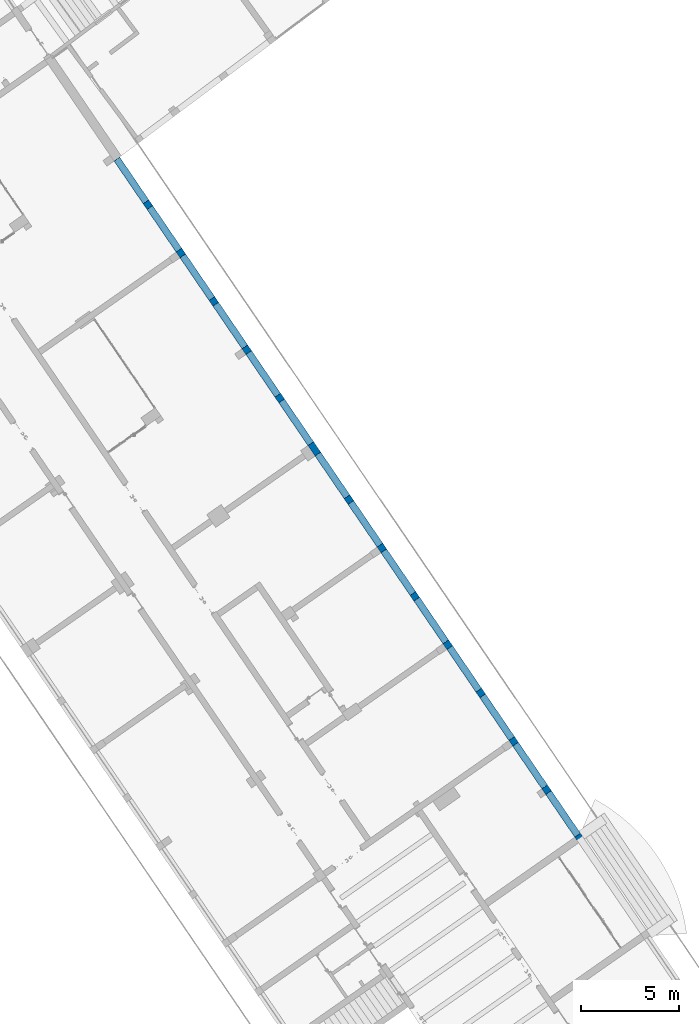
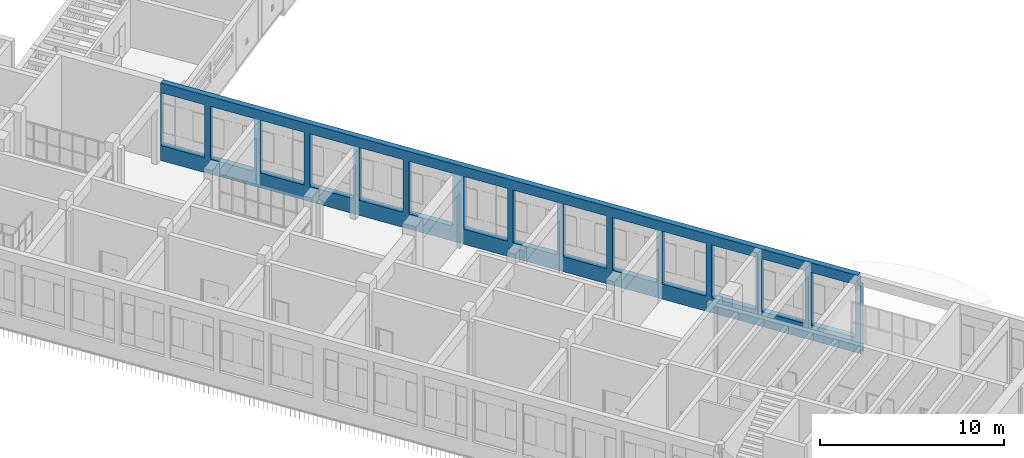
# One storey, part 126 of 157: 1 wall, 14 openings.
"""IFC2X3 building model written with IfcOpenShell, lengths in millimetres."""

from ifc_helpers import new_model, entity, si_unit, converted_unit, derived_unit, direction, frame, frame_2d, origin, place, context, subcontext, project, spatial, rectangle, extrude, faceted_brep, material, layer, layer_set, type_object, element, save


model = new_model("IFC2X3")

# Units and contexts
model_context = context("Model", 3, precision=0.01, world=origin(), true_north=direction((6.123031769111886e-17, 1.0)))
body_context = subcontext(model_context, "Body", "Model", "MODEL_VIEW")
ifc_project = project(units=[si_unit("LENGTHUNIT", "METRE", prefix="MILLI"), si_unit("AREAUNIT", "SQUARE_METRE"), si_unit("VOLUMEUNIT", "CUBIC_METRE"), converted_unit("PLANEANGLEUNIT", "DEGREE", entity("IfcRatioMeasure", 0.017453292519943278), si_unit("PLANEANGLEUNIT", "RADIAN"), dimensions=[0, 0, 0, 0, 0, 0, 0]), si_unit("MASSUNIT", "GRAM", prefix="KILO"), derived_unit("MASSDENSITYUNIT", [(si_unit("MASSUNIT", "GRAM", prefix="KILO"), 1), (si_unit("LENGTHUNIT", "METRE"), -3)]), derived_unit("MOMENTOFINERTIAUNIT", [(si_unit("LENGTHUNIT", "METRE"), 4)]), si_unit("TIMEUNIT", "SECOND"), si_unit("FREQUENCYUNIT", "HERTZ"), si_unit("THERMODYNAMICTEMPERATUREUNIT", "DEGREE_CELSIUS"), derived_unit("THERMALTRANSMITTANCEUNIT", [(si_unit("MASSUNIT", "GRAM", prefix="KILO"), 1), (si_unit("THERMODYNAMICTEMPERATUREUNIT", "KELVIN"), -1), (si_unit("TIMEUNIT", "SECOND"), -3)]), derived_unit("THERMALCONDUCTANCEUNIT", [(si_unit("MASSUNIT", "GRAM", prefix="KILO"), 1), (si_unit("LENGTHUNIT", "METRE"), 1), (si_unit("THERMODYNAMICTEMPERATUREUNIT", "KELVIN"), -1), (si_unit("TIMEUNIT", "SECOND"), -3)]), derived_unit("VOLUMETRICFLOWRATEUNIT", [(si_unit("LENGTHUNIT", "METRE"), 3), (si_unit("TIMEUNIT", "SECOND"), -1)]), derived_unit("MASSFLOWRATEUNIT", [(si_unit("MASSUNIT", "GRAM", prefix="KILO"), 1), (si_unit("TIMEUNIT", "SECOND"), -1)]), derived_unit("ROTATIONALFREQUENCYUNIT", [(si_unit("TIMEUNIT", "SECOND"), -1)]), si_unit("ELECTRICCURRENTUNIT", "AMPERE"), si_unit("ELECTRICVOLTAGEUNIT", "VOLT"), si_unit("POWERUNIT", "WATT"), converted_unit("FORCEUNIT", "KIP", entity("IfcRatioMeasure", 2.088543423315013e-05), si_unit("FORCEUNIT", "NEWTON"), dimensions=[1, 1, -2, 0, 0, 0, 0]), si_unit("ILLUMINANCEUNIT", "LUX"), si_unit("LUMINOUSFLUXUNIT", "LUMEN"), si_unit("LUMINOUSINTENSITYUNIT", "CANDELA"), derived_unit("USERDEFINED", [(si_unit("MASSUNIT", "GRAM", prefix="KILO"), -1), (si_unit("LENGTHUNIT", "METRE"), -2), (si_unit("TIMEUNIT", "SECOND"), 3), (si_unit("LUMINOUSFLUXUNIT", "LUMEN"), 1)]), derived_unit("USERDEFINED", [(si_unit("MASSUNIT", "GRAM", prefix="KILO"), 1), (si_unit("LENGTHUNIT", "METRE"), 3), (si_unit("TIMEUNIT", "SECOND"), -3), (si_unit("ELECTRICCURRENTUNIT", "AMPERE"), -2)]), derived_unit("USERDEFINED", [(si_unit("LENGTHUNIT", "METRE"), 2), (si_unit("TIMEUNIT", "SECOND"), -2)]), derived_unit("SOUNDPOWERUNIT", [(si_unit("MASSUNIT", "GRAM", prefix="KILO"), 1), (si_unit("LENGTHUNIT", "METRE"), 2), (si_unit("TIMEUNIT", "SECOND"), -3)]), derived_unit("SOUNDPRESSUREUNIT", [(si_unit("MASSUNIT", "GRAM", prefix="KILO"), 1), (si_unit("LENGTHUNIT", "METRE"), -1), (si_unit("TIMEUNIT", "SECOND"), -2)]), derived_unit("LINEARVELOCITYUNIT", [(si_unit("LENGTHUNIT", "METRE"), 1), (si_unit("TIMEUNIT", "SECOND"), -1)]), si_unit("PRESSUREUNIT", "PASCAL"), derived_unit("USERDEFINED", [(si_unit("LENGTHUNIT", "METRE"), -2), (si_unit("MASSUNIT", "GRAM", prefix="KILO"), 1), (si_unit("TIMEUNIT", "SECOND"), -2)]), derived_unit("LINEARFORCEUNIT", [(si_unit("MASSUNIT", "GRAM", prefix="KILO"), 1), (si_unit("LENGTHUNIT", "METRE"), 1), (si_unit("TIMEUNIT", "SECOND"), -2), (si_unit("LENGTHUNIT", "METRE"), -1)]), derived_unit("PLANARFORCEUNIT", [(si_unit("MASSUNIT", "GRAM", prefix="KILO"), 1), (si_unit("LENGTHUNIT", "METRE"), 1), (si_unit("TIMEUNIT", "SECOND"), -2), (si_unit("LENGTHUNIT", "METRE"), -2)]), derived_unit("SPECIFICHEATCAPACITYUNIT", [(si_unit("LENGTHUNIT", "METRE"), 2), (si_unit("TIMEUNIT", "SECOND"), -2), (si_unit("THERMODYNAMICTEMPERATUREUNIT", "KELVIN"), -1)]), derived_unit("VAPORPERMEABILITYUNIT", [(si_unit("TIMEUNIT", "SECOND"), 1), (si_unit("LENGTHUNIT", "METRE"), -1)]), derived_unit("DYNAMICVISCOSITYUNIT", [(si_unit("MASSUNIT", "GRAM", prefix="KILO"), 1), (si_unit("LENGTHUNIT", "METRE"), -1), (si_unit("TIMEUNIT", "SECOND"), -1)]), derived_unit("THERMALEXPANSIONCOEFFICIENTUNIT", [(si_unit("THERMODYNAMICTEMPERATUREUNIT", "KELVIN"), -1)])], contexts=[model_context])

# Site, building, storey
site_placement = place(None, frame((0.0, 0.0, 0.0), z_axis=(0.0, 0.0, 1.0), x_axis=(0.8191520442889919, 0.5735764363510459, 0.0)))
site = spatial("IfcSite", under=ifc_project, at=site_placement, Name="Default", CompositionType="ELEMENT")
building_placement = place(site_placement, origin())
building = spatial("IfcBuilding", under=site, at=building_placement, CompositionType="ELEMENT")
storey_placement = place(building_placement, origin())
storey = spatial("IfcBuildingStorey", under=building, at=storey_placement, Name="1.EG +0.00", CompositionType="ELEMENT", Elevation=-4.331468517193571e-12)

# Wall, openings
ifc_material = material(Name="Analytical Wall Surface_CJC")
ifc_layer = layer(ifc_material, 350.0)
ifc_layer_set = layer_set([ifc_layer], Name="Basic Wall:Wand_Aussen_35")
wall_type = type_object("IfcWallType", Name="Basic Wall:Wand_Aussen_35", PredefinedType="STANDARD", material=ifc_layer_set)
wall_placement = place(storey_placement, frame((-204385.50902908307, 157823.58477019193, 0.0), z_axis=(0.0, 0.0, 1.0), x_axis=(-0.012719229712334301, -0.9999191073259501, 0.0)))
wall = element("IfcWall", 1, at=wall_placement, inside=storey, type_object=wall_type, Name="Basic Wall:Wand_Aussen_35", ObjectType="Basic Wall:Wand_Aussen_35", context=body_context, shape_type="Brep", body=[
    faceted_brep([(0.0, -175.0, 0.0), (5654.909161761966, -175.0, 0.0), (6004.937476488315, -175.0, 0.0), (11655.39455707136, -175.0, 0.0), (12005.42287179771, -175.0, 0.0), (23956.38961745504, -175.0, 0.0), (24306.41793218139, -175.0, 0.0), (29956.87501276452, -175.0, 0.0), (30306.903327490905, -175.0, 0.0), (35957.360408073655, -175.0, 0.0), (36307.38872280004, -175.0, 0.0), (38957.603105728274, -175.0, 0.0), (39307.63142045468, -175.0, 0.0), (41957.84580338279, -175.0, 0.0), (42307.87411810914, -175.0, 0.0), (42307.87411810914, -175.0, 4500.0), (42130.63391547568, -175.0, 4500.0), (42130.633915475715, -175.0, 5150.0), (41957.845803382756, -175.0, 5150.0), (39307.63142045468, -175.0, 5150.0), (38957.603105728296, -175.0, 5150.0), (36307.388722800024, -175.0, 5150.0), (35957.36040807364, -175.0, 5150.0), (0.0, -175.0, 5150.0), (33305.3815944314, -175.0, 1000.0), (33305.3815944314, -175.0, 4500.0), (35955.38159443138, -175.0, 4500.0), (35955.38159443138, -175.0, 1000.0), (30305.38159443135, -175.0, 1000.0), (30305.38159443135, -175.0, 4500.0), (32955.381594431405, -175.0, 4500.0), (32955.381594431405, -175.0, 1000.0), (39305.38159443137, -175.0, 1000.0), (39305.38159443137, -175.0, 4500.0), (41955.38159443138, -175.0, 4500.0), (41955.38159443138, -175.0, 1000.0), (36305.381594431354, -175.0, 1000.0), (36305.381594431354, -175.0, 4500.0), (38955.381594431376, -175.0, 4500.0), (38955.381594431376, -175.0, 1000.0), (27305.38159443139, -175.0, 1000.0), (27305.38159443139, -175.0, 4500.0), (29955.381594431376, -175.0, 4500.0), (29955.381594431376, -175.0, 1000.0), (24305.381594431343, -175.0, 1000.0), (24305.381594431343, -175.0, 4500.0), (26955.381594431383, -175.0, 4500.0), (26955.381594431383, -175.0, 1000.0), (21305.38159443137, -175.0, 1000.0), (21305.381594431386, -175.0, 4500.0), (23955.381594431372, -175.0, 4500.0), (23955.381594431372, -175.0, 1000.0), (18305.38159443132, -175.0, 1000.0), (18305.38159443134, -175.0, 4500.0), (20955.38159443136, -175.0, 4500.0), (20955.38159443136, -175.0, 1000.0), (15005.38159443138, -175.0, 1000.0), (15005.381594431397, -175.0, 4500.0), (17655.381594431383, -175.0, 4500.0), (17655.381594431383, -175.0, 1000.0), (12005.381594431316, -175.0, 1000.0), (12005.381594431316, -175.0, 4500.0), (14655.381594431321, -175.0, 4500.0), (14655.381594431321, -175.0, 1000.0), (9005.381594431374, -175.0, 1000.0), (9005.381594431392, -175.0, 4500.0), (11655.38159443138, -175.0, 4500.0), (11655.38159443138, -175.0, 1000.0), (6005.381594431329, -175.0, 1000.0), (6005.3815944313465, -175.0, 4500.0), (8655.381594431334, -175.0, 4500.0), (8655.381594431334, -175.0, 1000.0), (3005.3815944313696, -175.0, 1000.0), (3005.3815944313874, -175.0, 4500.0), (5655.381594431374, -175.0, 4500.0), (5655.381594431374, -175.0, 1000.0), (5.381594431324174, -175.0, 1000.0), (5.381594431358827, -175.0, 4500.0), (2655.3815944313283, -175.0, 4500.0), (2655.3815944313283, -175.0, 1000.0), (0.0, 175.0, 0.0), (0.0, 175.0, 5150.0), (42130.633915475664, 175.0, 5150.0), (42130.633915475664, 175.0, 4500.0), (42303.422027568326, 175.0, 4500.0), (42303.422027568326, 175.0, 0.0), (33305.38159443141, 175.0, 1000.0), (35955.3815944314, 175.0, 1000.0), (35955.3815944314, 175.0, 4500.0), (33305.381594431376, 175.0, 4500.0), (30305.381594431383, 175.0, 1000.0), (32955.381594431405, 175.0, 1000.0), (32955.381594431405, 175.0, 4500.0), (30305.381594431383, 175.0, 4500.0), (39305.38159443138, 175.0, 1000.0), (41955.38159443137, 175.0, 1000.0), (41955.38159443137, 175.0, 4500.0), (39305.38159443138, 175.0, 4500.0), (36305.38159443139, 175.0, 1000.0), (38955.38159443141, 175.0, 1000.0), (38955.38159443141, 175.0, 4500.0), (36305.381594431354, 175.0, 4500.0), (27305.38159443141, 175.0, 1000.0), (29955.381594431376, 175.0, 1000.0), (29955.381594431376, 175.0, 4500.0), (27305.381594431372, 175.0, 4500.0), (24305.38159443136, 175.0, 1000.0), (26955.3815944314, 175.0, 1000.0), (26955.3815944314, 175.0, 4500.0), (24305.38159443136, 175.0, 4500.0), (21305.381594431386, 175.0, 1000.0), (23955.381594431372, 175.0, 1000.0), (23955.381594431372, 175.0, 4500.0), (21305.38159443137, 175.0, 4500.0), (18305.381594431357, 175.0, 1000.0), (20955.38159443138, 175.0, 1000.0), (20955.38159443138, 175.0, 4500.0), (18305.38159443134, 175.0, 4500.0), (15005.381594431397, 175.0, 1000.0), (17655.381594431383, 175.0, 1000.0), (17655.381594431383, 175.0, 4500.0), (15005.38159443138, 175.0, 4500.0), (12005.381594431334, 175.0, 1000.0), (14655.381594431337, 175.0, 1000.0), (14655.381594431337, 175.0, 4500.0), (12005.381594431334, 175.0, 4500.0), (9005.381594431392, 175.0, 1000.0), (11655.38159443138, 175.0, 1000.0), (11655.38159443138, 175.0, 4500.0), (9005.381594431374, 175.0, 4500.0), (6005.381594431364, 175.0, 1000.0), (8655.38159443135, 175.0, 1000.0), (8655.38159443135, 175.0, 4500.0), (6005.3815944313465, 175.0, 4500.0), (3005.3815944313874, 175.0, 1000.0), (5655.381594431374, 175.0, 1000.0), (5655.381594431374, 175.0, 4500.0), (3005.3815944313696, 175.0, 4500.0), (5.381594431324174, 175.0, 1000.0), (2655.3815944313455, 175.0, 1000.0), (2655.3815944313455, 175.0, 4500.0), (5.381594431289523, 175.0, 4500.0)], [[[0, 1, 2, 3, 4, 5, 6, 7, 8, 9, 10, 11, 12, 13, 14, 15, 16, 17, 18, 19, 20, 21, 22, 23], [24, 25, 26, 27], [28, 29, 30, 31], [32, 33, 34, 35], [36, 37, 38, 39], [40, 41, 42, 43], [44, 45, 46, 47], [48, 49, 50, 51], [52, 53, 54, 55], [56, 57, 58, 59], [60, 61, 62, 63], [64, 65, 66, 67], [68, 69, 70, 71], [72, 73, 74, 75], [76, 77, 78, 79]], [[80, 81, 82, 83, 84, 85], [86, 87, 88, 89], [90, 91, 92, 93], [94, 95, 96, 97], [98, 99, 100, 101], [102, 103, 104, 105], [106, 107, 108, 109], [110, 111, 112, 113], [114, 115, 116, 117], [118, 119, 120, 121], [122, 123, 124, 125], [126, 127, 128, 129], [130, 131, 132, 133], [134, 135, 136, 137], [138, 139, 140, 141]], [[14, 13, 12, 11, 10, 9, 8, 7, 6, 5, 4, 3, 2, 1, 0, 80, 85]], [[23, 22, 21, 20, 19, 18, 17, 82, 81]], [[0, 23, 81, 80]], [[25, 24, 86, 89]], [[26, 25, 89, 88]], [[27, 26, 88, 87]], [[24, 27, 87, 86]], [[29, 28, 90, 93]], [[30, 29, 93, 92]], [[31, 30, 92, 91]], [[28, 31, 91, 90]], [[33, 32, 94, 97]], [[34, 33, 97, 96]], [[35, 34, 96, 95]], [[32, 35, 95, 94]], [[37, 36, 98, 101]], [[38, 37, 101, 100]], [[39, 38, 100, 99]], [[36, 39, 99, 98]], [[41, 40, 102, 105]], [[42, 41, 105, 104]], [[43, 42, 104, 103]], [[40, 43, 103, 102]], [[45, 44, 106, 109]], [[46, 45, 109, 108]], [[47, 46, 108, 107]], [[44, 47, 107, 106]], [[49, 48, 110, 113]], [[50, 49, 113, 112]], [[51, 50, 112, 111]], [[48, 51, 111, 110]], [[53, 52, 114, 117]], [[54, 53, 117, 116]], [[55, 54, 116, 115]], [[52, 55, 115, 114]], [[57, 56, 118, 121]], [[58, 57, 121, 120]], [[59, 58, 120, 119]], [[56, 59, 119, 118]], [[61, 60, 122, 125]], [[62, 61, 125, 124]], [[63, 62, 124, 123]], [[60, 63, 123, 122]], [[65, 64, 126, 129]], [[66, 65, 129, 128]], [[67, 66, 128, 127]], [[64, 67, 127, 126]], [[69, 68, 130, 133]], [[70, 69, 133, 132]], [[71, 70, 132, 131]], [[68, 71, 131, 130]], [[73, 72, 134, 137]], [[74, 73, 137, 136]], [[75, 74, 136, 135]], [[72, 75, 135, 134]], [[77, 76, 138, 141]], [[78, 77, 141, 140]], [[79, 78, 140, 139]], [[76, 79, 139, 138]], [[17, 16, 83, 82]], [[83, 16, 15, 84]], [[15, 14, 85, 84]]]),
])
opening_1_placement = place(wall_placement, frame((30305.38159443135, -175.0, 1000.0)))
element("IfcOpeningElement", 2, at=opening_1_placement, cuts=wall, Name="Fenster_Aussen_CJC:Fenster_Aussen_CJC_265x350:1", ObjectType="Opening", context=body_context, shape_type="SweptSolid", body=[
    extrude(rectangle(XDim=3499.999999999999, YDim=2650.0, at=frame_2d((1749.9999999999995, 1325.0000000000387), x_axis=(1.0, 0.0))), frame((0.0, 0.0, 0.0), z_axis=(0.0, 1.0, 0.0), x_axis=(0.0, 0.0, 1.0)), (0.0, 0.0, 1.0), 349.99999999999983),
])
opening_2_placement = place(wall_placement, frame((33305.381594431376, -175.0, 1000.0)))
element("IfcOpeningElement", 3, at=opening_2_placement, cuts=wall, Name="Fenster_Aussen_CJC:Fenster_Aussen_CJC_265x350:1", ObjectType="Opening", context=body_context, shape_type="SweptSolid", body=[
    extrude(rectangle(XDim=3499.999999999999, YDim=2650.0000000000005, at=frame_2d((1749.9999999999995, 1325.0000000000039), x_axis=(1.0, 0.0))), frame((0.0, 0.0, 0.0), z_axis=(0.0, 1.0, 0.0), x_axis=(0.0, 0.0, 1.0)), (0.0, 0.0, 1.0), 349.99999999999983),
])
opening_3_placement = place(wall_placement, frame((36305.38159443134, -175.0, 1000.0)))
element("IfcOpeningElement", 4, at=opening_3_placement, cuts=wall, Name="Fenster_Aussen_CJC:Fenster_Aussen_CJC_265x350:1", ObjectType="Opening", context=body_context, shape_type="SweptSolid", body=[
    extrude(rectangle(XDim=3499.999999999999, YDim=2650.0, at=frame_2d((1749.9999999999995, 1325.0000000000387), x_axis=(1.0, 0.0))), frame((0.0, 0.0, 0.0), z_axis=(0.0, 1.0, 0.0), x_axis=(0.0, 0.0, 1.0)), (0.0, 0.0, 1.0), 349.99999999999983),
])
opening_4_placement = place(wall_placement, frame((39305.38159443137, -175.0, 1000.0)))
element("IfcOpeningElement", 5, at=opening_4_placement, cuts=wall, Name="Fenster_Aussen_CJC:Fenster_Aussen_CJC_265x350:1", ObjectType="Opening", context=body_context, shape_type="SweptSolid", body=[
    extrude(rectangle(XDim=3499.999999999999, YDim=2650.0000000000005, at=frame_2d((1749.9999999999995, 1325.0000000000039), x_axis=(1.0, 0.0))), frame((0.0, 0.0, 0.0), z_axis=(0.0, 1.0, 0.0), x_axis=(0.0, 0.0, 1.0)), (0.0, 0.0, 1.0), 349.99999999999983),
])
opening_5_placement = place(wall_placement, frame((24305.381594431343, -175.0, 1000.0)))
element("IfcOpeningElement", 6, at=opening_5_placement, cuts=wall, Name="Fenster_Aussen_CJC:Fenster_Aussen_CJC_265x350:1", ObjectType="Opening", context=body_context, shape_type="SweptSolid", body=[
    extrude(rectangle(XDim=3499.999999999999, YDim=2650.0, at=frame_2d((1749.9999999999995, 1325.0000000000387), x_axis=(1.0, 0.0))), frame((0.0, 0.0, 0.0), z_axis=(0.0, 1.0, 0.0), x_axis=(0.0, 0.0, 1.0)), (0.0, 0.0, 1.0), 349.99999999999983),
])
opening_6_placement = place(wall_placement, frame((27305.381594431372, -175.0, 1000.0)))
element("IfcOpeningElement", 7, at=opening_6_placement, cuts=wall, Name="Fenster_Aussen_CJC:Fenster_Aussen_CJC_265x350:1", ObjectType="Opening", context=body_context, shape_type="SweptSolid", body=[
    extrude(rectangle(XDim=3499.999999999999, YDim=2650.0000000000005, at=frame_2d((1749.9999999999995, 1325.0000000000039), x_axis=(1.0, 0.0))), frame((0.0, 0.0, 0.0), z_axis=(0.0, 1.0, 0.0), x_axis=(0.0, 0.0, 1.0)), (0.0, 0.0, 1.0), 349.99999999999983),
])
opening_7_placement = place(wall_placement, frame((18305.38159443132, -175.0, 1000.0)))
element("IfcOpeningElement", 8, at=opening_7_placement, cuts=wall, Name="Fenster_Aussen_CJC:Fenster_Aussen_CJC_265x350:1", ObjectType="Opening", context=body_context, shape_type="SweptSolid", body=[
    extrude(rectangle(XDim=3499.999999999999, YDim=2650.0, at=frame_2d((1749.9999999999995, 1325.0000000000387), x_axis=(1.0, 0.0))), frame((0.0, 0.0, 0.0), z_axis=(0.0, 1.0, 0.0), x_axis=(0.0, 0.0, 1.0)), (0.0, 0.0, 1.0), 349.99999999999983),
])
opening_8_placement = place(wall_placement, frame((21305.38159443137, -175.0, 1000.0)))
element("IfcOpeningElement", 9, at=opening_8_placement, cuts=wall, Name="Fenster_Aussen_CJC:Fenster_Aussen_CJC_265x350:1", ObjectType="Opening", context=body_context, shape_type="SweptSolid", body=[
    extrude(rectangle(XDim=3499.999999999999, YDim=2650.0000000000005, at=frame_2d((1749.9999999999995, 1325.0000000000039), x_axis=(1.0, 0.0))), frame((0.0, 0.0, 0.0), z_axis=(0.0, 1.0, 0.0), x_axis=(0.0, 0.0, 1.0)), (0.0, 0.0, 1.0), 349.99999999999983),
])
opening_9_placement = place(wall_placement, frame((12005.381594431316, -175.0, 1000.0)))
element("IfcOpeningElement", 10, at=opening_9_placement, cuts=wall, Name="Fenster_Aussen_CJC:Fenster_Aussen_CJC_265x350:1", ObjectType="Opening", context=body_context, shape_type="SweptSolid", body=[
    extrude(rectangle(XDim=3499.999999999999, YDim=2650.0000000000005, at=frame_2d((1749.9999999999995, 1325.0000000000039), x_axis=(1.0, 0.0))), frame((0.0, 0.0, 0.0), z_axis=(0.0, 1.0, 0.0), x_axis=(0.0, 0.0, 1.0)), (0.0, 0.0, 1.0), 349.99999999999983),
])
opening_10_placement = place(wall_placement, frame((15005.38159443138, -175.0, 1000.0)))
element("IfcOpeningElement", 11, at=opening_10_placement, cuts=wall, Name="Fenster_Aussen_CJC:Fenster_Aussen_CJC_265x350:1", ObjectType="Opening", context=body_context, shape_type="SweptSolid", body=[
    extrude(rectangle(XDim=3499.999999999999, YDim=2650.0000000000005, at=frame_2d((1749.9999999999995, 1325.0000000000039), x_axis=(1.0, 0.0))), frame((0.0, 0.0, 0.0), z_axis=(0.0, 1.0, 0.0), x_axis=(0.0, 0.0, 1.0)), (0.0, 0.0, 1.0), 349.99999999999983),
])
opening_11_placement = place(wall_placement, frame((6005.381594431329, -175.0, 1000.0)))
element("IfcOpeningElement", 12, at=opening_11_placement, cuts=wall, Name="Fenster_Aussen_CJC:Fenster_Aussen_CJC_265x350:1", ObjectType="Opening", context=body_context, shape_type="SweptSolid", body=[
    extrude(rectangle(XDim=3499.999999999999, YDim=2650.0000000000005, at=frame_2d((1749.9999999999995, 1325.0000000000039), x_axis=(1.0, 0.0))), frame((0.0, 0.0, 0.0), z_axis=(0.0, 1.0, 0.0), x_axis=(0.0, 0.0, 1.0)), (0.0, 0.0, 1.0), 349.99999999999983),
])
opening_12_placement = place(wall_placement, frame((9005.381594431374, -175.0, 1000.0)))
element("IfcOpeningElement", 13, at=opening_12_placement, cuts=wall, Name="Fenster_Aussen_CJC:Fenster_Aussen_CJC_265x350:1", ObjectType="Opening", context=body_context, shape_type="SweptSolid", body=[
    extrude(rectangle(XDim=3499.999999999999, YDim=2650.0000000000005, at=frame_2d((1749.9999999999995, 1325.0000000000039), x_axis=(1.0, 0.0))), frame((0.0, 0.0, 0.0), z_axis=(0.0, 1.0, 0.0), x_axis=(0.0, 0.0, 1.0)), (0.0, 0.0, 1.0), 349.99999999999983),
])
opening_13_placement = place(wall_placement, frame((5.381594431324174, -175.0, 1000.0)))
element("IfcOpeningElement", 14, at=opening_13_placement, cuts=wall, Name="Fenster_Aussen_CJC:Fenster_Aussen_CJC_265x350:1", ObjectType="Opening", context=body_context, shape_type="SweptSolid", body=[
    extrude(rectangle(XDim=3499.999999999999, YDim=2650.0000000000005, at=frame_2d((1749.9999999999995, 1325.0000000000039), x_axis=(1.0, 0.0))), frame((0.0, 0.0, 0.0), z_axis=(0.0, 1.0, 0.0), x_axis=(0.0, 0.0, 1.0)), (0.0, 0.0, 1.0), 349.99999999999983),
])
opening_14_placement = place(wall_placement, frame((3005.3815944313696, -175.0, 1000.0)))
element("IfcOpeningElement", 15, at=opening_14_placement, cuts=wall, Name="Fenster_Aussen_CJC:Fenster_Aussen_CJC_265x350:1", ObjectType="Opening", context=body_context, shape_type="SweptSolid", body=[
    extrude(rectangle(XDim=3499.999999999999, YDim=2650.0000000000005, at=frame_2d((1749.9999999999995, 1325.0000000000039), x_axis=(1.0, 0.0))), frame((0.0, 0.0, 0.0), z_axis=(0.0, 1.0, 0.0), x_axis=(0.0, 0.0, 1.0)), (0.0, 0.0, 1.0), 349.99999999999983),
])

save(model, "model.ifc")
